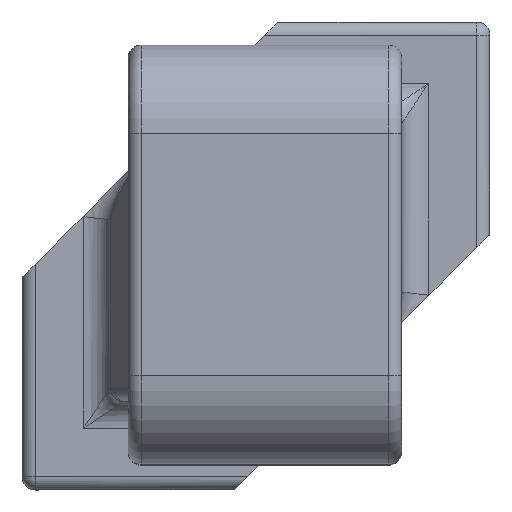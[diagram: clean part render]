
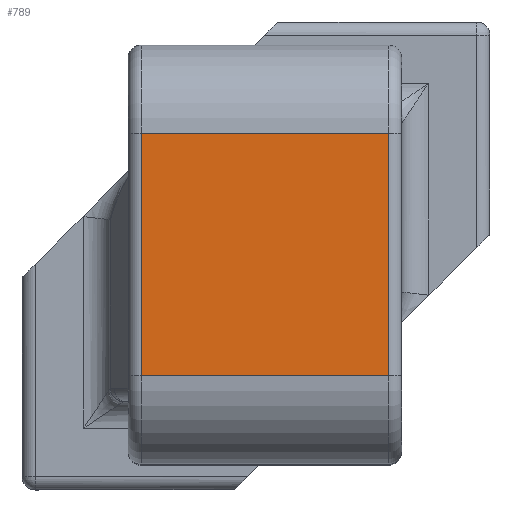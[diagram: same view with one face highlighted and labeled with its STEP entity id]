
A CAD part, top view. The second image highlights one B-rep face of the part: STEP entity #789.
In plain terms, the highlighted planar face has unit normal (0, 0, 1).
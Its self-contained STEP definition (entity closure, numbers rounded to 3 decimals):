
#789=ADVANCED_FACE('',(#1592),#1593,.F.);
#1592=FACE_OUTER_BOUND('',#2607,.T.);
#1593=PLANE('',#2608);
#2607=EDGE_LOOP('',(#5015,#5016,#5017,#5018));
#2608=AXIS2_PLACEMENT_3D('',#5019,#5020,#5021);
#5015=ORIENTED_EDGE('',*,*,#5924,.F.);
#5016=ORIENTED_EDGE('',*,*,#5499,.T.);
#5017=ORIENTED_EDGE('',*,*,#5386,.T.);
#5018=ORIENTED_EDGE('',*,*,#5314,.F.);
#5019=CARTESIAN_POINT('',(15.5,7.2,16.2));
#5020=DIRECTION('',(0.0,0.0,-1.0));
#5021=DIRECTION('',(0.0,-1.0,0.0));
#5314=EDGE_CURVE('',#6455,#6456,#6457,.T.);
#5386=EDGE_CURVE('',#6267,#6456,#6570,.T.);
#5499=EDGE_CURVE('',#6639,#6267,#6758,.T.);
#5924=EDGE_CURVE('',#6639,#6455,#7357,.T.);
#6267=VERTEX_POINT('',#7789);
#6455=VERTEX_POINT('',#8059);
#6456=VERTEX_POINT('',#8060);
#6457=LINE('',#8061,#8062);
#6570=LINE('',#8227,#8228);
#6639=VERTEX_POINT('',#8322);
#6758=LINE('',#8495,#8496);
#7357=LINE('',#9460,#9461);
#7789=CARTESIAN_POINT('',(15.5,9.75,16.2));
#8059=CARTESIAN_POINT('',(9.9,15.25,16.2));
#8060=CARTESIAN_POINT('',(15.5,15.25,16.2));
#8061=CARTESIAN_POINT('',(7.2,15.25,16.2));
#8062=VECTOR('',#9926,1.0);
#8227=CARTESIAN_POINT('',(15.5,7.2,16.2));
#8228=VECTOR('',#9996,1.0);
#8322=CARTESIAN_POINT('',(9.9,9.75,16.2));
#8495=CARTESIAN_POINT('',(7.2,9.75,16.2));
#8496=VECTOR('',#10118,1.0);
#9460=CARTESIAN_POINT('',(9.9,7.2,16.2));
#9461=VECTOR('',#10515,1.0);
#9926=DIRECTION('',(1.0,0.0,0.0));
#9996=DIRECTION('',(0.0,1.0,0.0));
#10118=DIRECTION('',(1.0,0.0,0.0));
#10515=DIRECTION('',(0.0,1.0,0.0));
